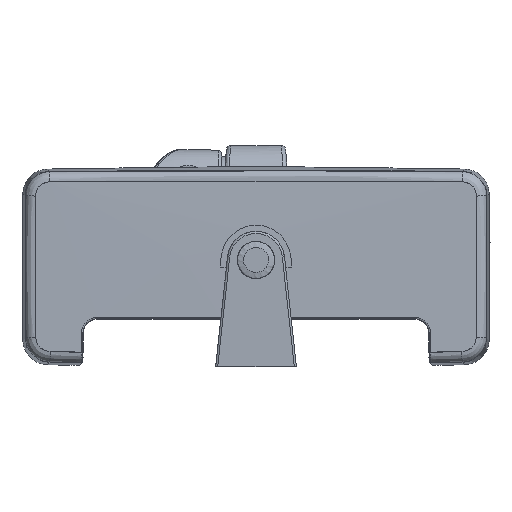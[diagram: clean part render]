
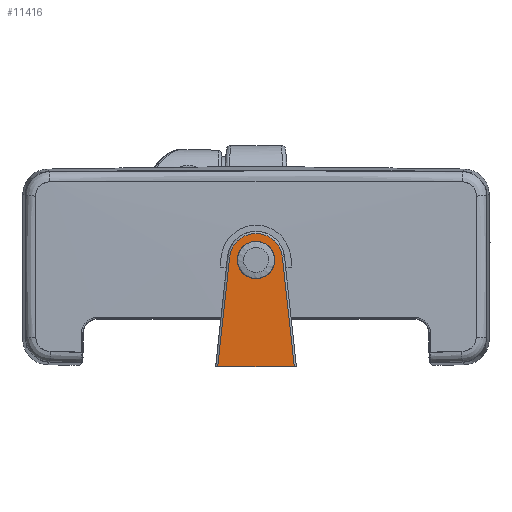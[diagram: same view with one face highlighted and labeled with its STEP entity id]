
A CAD part, front view. The second image highlights one B-rep face of the part: STEP entity #11416.
In plain terms, the highlighted planar face has unit normal (0, -1, 0).
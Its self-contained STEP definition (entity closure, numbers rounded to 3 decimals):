
#2 = VERTEX_POINT ( 'NONE', #13508 ) ;
#121 = ORIENTED_EDGE ( 'NONE', *, *, #9094, .F. ) ;
#1156 = CIRCLE ( 'NONE', #1741, 12.576 ) ;
#1298 = VECTOR ( 'NONE', #2720, 1000. ) ;
#1518 = LINE ( 'NONE', #7304, #1298 ) ;
#1741 = AXIS2_PLACEMENT_3D ( 'NONE', #5092, #12625, #6216 ) ;
#1749 = CARTESIAN_POINT ( 'NONE',  ( 18.161, -350.5, -0.02 ) ) ;
#1817 = DIRECTION ( 'NONE',  ( -0.108, 0., -0.994 ) ) ;
#1854 = AXIS2_PLACEMENT_3D ( 'NONE', #4785, #12345, #5912 ) ;
#1899 = DIRECTION ( 'NONE',  ( 0., 1., 0. ) ) ;
#2153 = ORIENTED_EDGE ( 'NONE', *, *, #12922, .T. ) ;
#2356 = EDGE_CURVE ( 'NONE', #6244, #6616, #4749, .T. ) ;
#2577 = EDGE_LOOP ( 'NONE', ( #2153, #7374, #8413, #8225 ) ) ;
#2720 = DIRECTION ( 'NONE',  ( -0.108, 0., 0.994 ) ) ;
#2937 = CARTESIAN_POINT ( 'NONE',  ( 12.502, -350.5, 51.864 ) ) ;
#2964 = CARTESIAN_POINT ( 'NONE',  ( 0., -350.5, 50.5 ) ) ;
#3394 = FACE_OUTER_BOUND ( 'NONE', #2577, .T. ) ;
#3453 = CARTESIAN_POINT ( 'NONE',  ( -12.502, -350.5, 51.864 ) ) ;
#3474 = CIRCLE ( 'NONE', #1854, 8.9 ) ;
#3547 = EDGE_CURVE ( 'NONE', #6244, #11719, #1518, .T. ) ;
#3710 = VECTOR ( 'NONE', #1817, 1000. ) ;
#4444 = CARTESIAN_POINT ( 'NONE',  ( -19.167, -350.5, -0.02 ) ) ;
#4749 = LINE ( 'NONE', #4444, #4907 ) ;
#4785 = CARTESIAN_POINT ( 'NONE',  ( 0., -350.5, 50.5 ) ) ;
#4797 = LINE ( 'NONE', #12779, #3710 ) ;
#4907 = VECTOR ( 'NONE', #12050, 1000. ) ;
#5092 = CARTESIAN_POINT ( 'NONE',  ( 0., -350.5, 50.5 ) ) ;
#5179 = FACE_BOUND ( 'NONE', #7908, .T. ) ;
#5811 = CARTESIAN_POINT ( 'NONE',  ( -18.161, -350.5, -0.02 ) ) ;
#5912 = DIRECTION ( 'NONE',  ( 0., 0., 1. ) ) ;
#6216 = DIRECTION ( 'NONE',  ( 1., 0., 0. ) ) ;
#6244 = VERTEX_POINT ( 'NONE', #1749 ) ;
#6452 = PLANE ( 'NONE',  #13425 ) ;
#6616 = VERTEX_POINT ( 'NONE', #5811 ) ;
#7304 = CARTESIAN_POINT ( 'NONE',  ( 12.502, -350.5, 51.864 ) ) ;
#7374 = ORIENTED_EDGE ( 'NONE', *, *, #11759, .T. ) ;
#7908 = EDGE_LOOP ( 'NONE', ( #121 ) ) ;
#8225 = ORIENTED_EDGE ( 'NONE', *, *, #3547, .T. ) ;
#8413 = ORIENTED_EDGE ( 'NONE', *, *, #2356, .F. ) ;
#9094 = EDGE_CURVE ( 'NONE', #2, #2, #3474, .T. ) ;
#9799 = DIRECTION ( 'NONE',  ( 1., 0., 0. ) ) ;
#10505 = VERTEX_POINT ( 'NONE', #3453 ) ;
#11416 = ADVANCED_FACE ( 'NONE', ( #5179, #3394 ), #6452, .F. ) ;
#11719 = VERTEX_POINT ( 'NONE', #2937 ) ;
#11759 = EDGE_CURVE ( 'NONE', #10505, #6616, #4797, .T. ) ;
#12050 = DIRECTION ( 'NONE',  ( -1., 0., 0. ) ) ;
#12345 = DIRECTION ( 'NONE',  ( 0., -1., 0. ) ) ;
#12625 = DIRECTION ( 'NONE',  ( 0., -1., 0. ) ) ;
#12779 = CARTESIAN_POINT ( 'NONE',  ( -18.173, -350.5, -0.128 ) ) ;
#12922 = EDGE_CURVE ( 'NONE', #11719, #10505, #1156, .T. ) ;
#13425 = AXIS2_PLACEMENT_3D ( 'NONE', #2964, #1899, #9799 ) ;
#13508 = CARTESIAN_POINT ( 'NONE',  ( 0., -350.5, 59.4 ) ) ;
